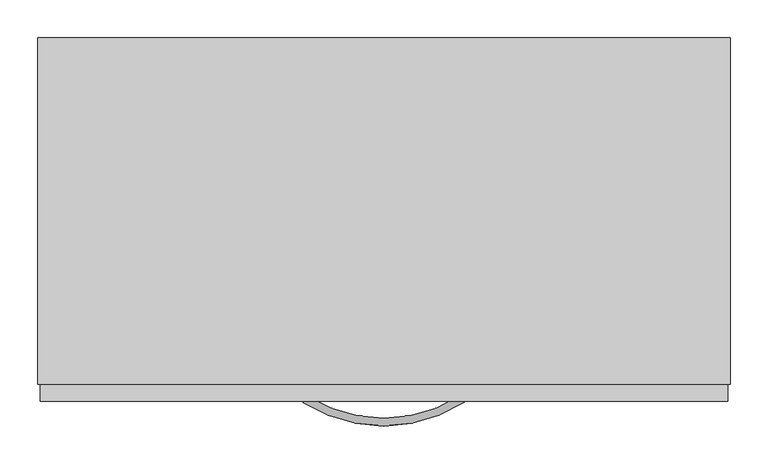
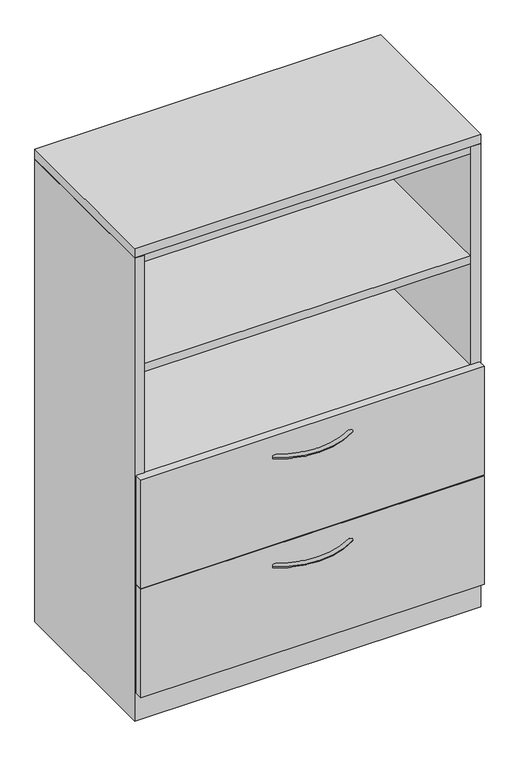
"""IFC4 building model written with IfcOpenShell, lengths in millimetres: furniture geometry, Steelcase - Universal Storage - Cabinet - Combination - Proud Steel : 52H - Open Cabinet/2 Drawers - 18 7/8D x 36W."""

from ifc_helpers import new_model, si_unit, point, frame, origin, place, context, project, spatial, polyline, circle_curve, ellipse_curve, trimmed, outline, extrude, faceted_brep, source, transform, mapped, element, save
from ifc_brep_helpers import plane_surface, revolved_surface, advanced_brep


def furniture_ed3dfec5(model_context):
    return source(origin(), model_context, "Body", "SolidModel", [
        extrude(outline(polyline([(889.0000242, -25.4000008), (889.0000242, -454.0250121), (25.4000008, -454.0250121), (25.4000008, -25.4000008), (889.0000242, -25.4000008)])), frame((0.0, 0.0, 660.4000242), z_axis=(0.0, 0.0, 1.0), x_axis=(1.0, 0.0, 0.0)), (0.0, 0.0, 1.0), 22.2249516),
        extrude(outline(polyline([(889.0000242, -25.4000008), (889.0000242, -454.0250121), (25.4000008, -454.0250121), (25.4000008, -25.4000008), (889.0000242, -25.4000008)])), frame((0.0, 0.0, 965.2000242), z_axis=(0.0, 0.0, 1.0), x_axis=(1.0, 0.0, 0.0)), (0.0, 0.0, 1.0), 22.2249516),
        extrude(outline(polyline([(889.0000242, -25.4000008), (889.0000242, -454.0250121), (25.4000008, -454.0250121), (25.4000008, -25.4000008), (889.0000242, -25.4000008)])), frame((0.0, 0.0, 1273.1750484), z_axis=(0.0, 0.0, 1.0), x_axis=(1.0, 0.0, 0.0)), (0.0, 0.0, 1.0), 22.2249516),
        advanced_brep(
        [(350.6245932, -481.5705994, 323.56425), (356.0977519, -473.0108019, 323.56425), (562.9315136, -481.1337636, 323.56425), (557.4231767, -472.5965612, 323.56425)],
        [
            (0, 1, circle_curve(frame((353.3611726, -477.2907007, 323.56425), z_axis=(-0.8424997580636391, 0.5386967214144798, 0.0), x_axis=(0.5386967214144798, 0.8424997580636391, 0.0)), 5.08)),
            (1, 0, circle_curve(frame((353.3611726, -477.2907007, 323.56425), z_axis=(-0.8424997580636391, 0.5386967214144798, 0.0), x_axis=(0.5386967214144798, 0.8424997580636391, 0.0)), 5.08)),
            (2, 3, circle_curve(frame((560.1773452, -476.8651624, 323.56425), z_axis=(0.8402758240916, 0.5421591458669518, 0.0), x_axis=(-0.5421591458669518, 0.8402758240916, 0.0)), 5.08)),
            (3, 2, circle_curve(frame((560.1773452, -476.8651624, 323.56425), z_axis=(0.8402758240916, 0.5421591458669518, 0.0), x_axis=(-0.5421591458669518, 0.8402758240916, 0.0)), 5.08)),
            (3, 1, circle_curve(frame((456.4380004, -316.0827352, 323.56425), z_axis=(0.0, 0.0, -1.0), x_axis=(-0.5386967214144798, -0.8424997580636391, 0.0)), 186.2648211)),
            (0, 2, circle_curve(frame((456.4380004, -316.0827352, 323.56425), z_axis=(0.0, 0.0, 1.0), x_axis=(-0.5386967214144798, -0.8424997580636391, 0.0)), 196.4248211)),
        ],
        [
            plane_surface(frame((353.7794521, -476.6365286, 324.358), z_axis=(-0.8424997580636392, 0.5386967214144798, 0.0), x_axis=(0.0, 0.0, 1.0))),
            plane_surface(frame((559.7563772, -476.2127171, 324.358), z_axis=(0.8402758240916, 0.5421591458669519, 0.0), x_axis=(0.0, 0.0, 1.0))),
            revolved_surface(trimmed(ellipse_curve(frame((353.3611726, -477.2907007, 323.56425), z_axis=(-0.8424997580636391, 0.5386967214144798, 0.0), x_axis=(0.5386967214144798, 0.8424997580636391, 0.0)), 5.08, 5.08), [point((350.6245932, -481.5705994, 323.56425))], [point((356.0977519, -473.0108019, 323.56425))], True, "CARTESIAN"), (456.4380004, -316.0827352, 324.358), (0.0, 0.0, 1.0)),
            revolved_surface(trimmed(ellipse_curve(frame((353.3611726, -477.2907007, 323.56425), z_axis=(-0.8424997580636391, 0.5386967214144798, 0.0), x_axis=(0.5386967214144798, 0.8424997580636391, 0.0)), 5.08, 5.08), [point((356.0977519, -473.0108019, 323.56425))], [point((350.6245932, -481.5705994, 323.56425))], True, "CARTESIAN"), (456.4380004, -316.0827352, 324.358), (0.0, 0.0, 1.0)),
        ],
        [
            (0, [[1, 2]]),
            (1, [[3, 4]]),
            (2, [[5, -1, 6, -4]]),
            (3, [[-6, -2, -5, -3]]),
        ],
    ),
        advanced_brep(
        [(350.6245932, -481.5705994, 627.85625), (356.0977519, -473.0108019, 627.85625), (562.9315136, -481.1337636, 627.85625), (557.4231767, -472.5965612, 627.85625)],
        [
            (0, 1, circle_curve(frame((353.3611726, -477.2907007, 627.85625), z_axis=(-0.8424997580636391, 0.5386967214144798, 0.0), x_axis=(0.5386967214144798, 0.8424997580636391, 0.0)), 5.08)),
            (1, 0, circle_curve(frame((353.3611726, -477.2907007, 627.85625), z_axis=(-0.8424997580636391, 0.5386967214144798, 0.0), x_axis=(0.5386967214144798, 0.8424997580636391, 0.0)), 5.08)),
            (2, 3, circle_curve(frame((560.1773452, -476.8651624, 627.85625), z_axis=(0.8402758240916, 0.5421591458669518, 0.0), x_axis=(-0.5421591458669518, 0.8402758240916, 0.0)), 5.08)),
            (3, 2, circle_curve(frame((560.1773452, -476.8651624, 627.85625), z_axis=(0.8402758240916, 0.5421591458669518, 0.0), x_axis=(-0.5421591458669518, 0.8402758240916, 0.0)), 5.08)),
            (3, 1, circle_curve(frame((456.4380004, -316.0827352, 627.85625), z_axis=(0.0, 0.0, -1.0), x_axis=(-0.5386967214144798, -0.8424997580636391, 0.0)), 186.2648211)),
            (0, 2, circle_curve(frame((456.4380004, -316.0827352, 627.85625), z_axis=(0.0, 0.0, 1.0), x_axis=(-0.5386967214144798, -0.8424997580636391, 0.0)), 196.4248211)),
        ],
        [
            plane_surface(frame((353.7794521, -476.6365286, 628.65), z_axis=(-0.8424997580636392, 0.5386967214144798, 0.0), x_axis=(0.0, 0.0, 1.0))),
            plane_surface(frame((559.7563772, -476.2127171, 628.65), z_axis=(0.8402758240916, 0.5421591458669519, 0.0), x_axis=(0.0, 0.0, 1.0))),
            revolved_surface(trimmed(ellipse_curve(frame((353.3611726, -477.2907007, 627.85625), z_axis=(-0.8424997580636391, 0.5386967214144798, 0.0), x_axis=(0.5386967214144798, 0.8424997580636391, 0.0)), 5.08, 5.08), [point((350.6245932, -481.5705994, 627.85625))], [point((356.0977519, -473.0108019, 627.85625))], True, "CARTESIAN"), (456.4380004, -316.0827352, 628.65), (0.0, 0.0, 1.0)),
            revolved_surface(trimmed(ellipse_curve(frame((353.3611726, -477.2907007, 627.85625), z_axis=(-0.8424997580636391, 0.5386967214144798, 0.0), x_axis=(0.5386967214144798, 0.8424997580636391, 0.0)), 5.08, 5.08), [point((356.0977519, -473.0108019, 627.85625))], [point((350.6245932, -481.5705994, 627.85625))], True, "CARTESIAN"), (456.4380004, -316.0827352, 628.65), (0.0, 0.0, 1.0)),
        ],
        [
            (0, [[1, 2]]),
            (1, [[3, 4]]),
            (2, [[5, -1, 6, -4]]),
            (3, [[-6, -2, -5, -3]]),
        ],
    ),
        faceted_brep([(25.4000008, -457.3261219, 76.2), (889.0000242, -457.3261219, 76.2), (889.0000242, -25.4000008, 76.2), (25.4000008, -25.4000008, 76.2), (914.4, 0.0, 0.0), (914.4, -457.3261219, 0.0), (0.0, -457.3261219, 0.0), (0.0, 0.0, 0.0), (0.0, 0.0, 1293.876), (914.4, 0.0, 1293.876), (0.0, -457.3261219, 1293.876), (914.4, -457.3261219, 1293.876), (889.0000242, -457.3261219, 1293.876), (25.4000008, -457.3261219, 1293.876), (889.0000242, -25.4000008, 1293.876), (25.4000008, -25.4000008, 1293.876)], [[[0, 1, 2, 3]], [[4, 5, 6, 7]], [[4, 7, 8, 9]], [[8, 7, 6, 10]], [[10, 6, 5, 11, 12, 1, 0, 13]], [[11, 5, 4, 9]], [[14, 12, 11, 9, 8, 10, 13, 15]], [[12, 14, 2, 1]], [[15, 13, 0, 3]], [[14, 15, 3, 2]]]),
        extrude(outline(polyline([(911.2225413, -479.552), (3.1725353, -479.552), (3.1725353, -457.3261219), (911.2225413, -457.3261219), (911.2225413, -479.552)])), frame((0.0, 0.0, 77.724), z_axis=(0.0, 0.0, 1.0), x_axis=(1.0, 0.0, 0.0)), (0.0, 0.0, 1.0), 303.276),
        extrude(outline(polyline([(911.2225413, -479.552), (3.1725353, -479.552), (3.1725353, -457.3261219), (911.2225413, -457.3261219), (911.2225413, -479.552)])), frame((0.0, 0.0, 382.524), z_axis=(0.0, 0.0, 1.0), x_axis=(1.0, 0.0, 0.0)), (0.0, 0.0, 1.0), 303.276),
        extrude(outline(polyline([(914.4, 0.0), (914.4, -457.3261219), (0.0, -457.3261219), (0.0, 0.0), (914.4, 0.0)])), frame((0.0, 0.0, 1295.3999516), z_axis=(0.0, 0.0, 1.0), x_axis=(1.0, 0.0, 0.0)), (0.0, 0.0, 1.0), 25.4000484),
    ])


if __name__ == "__main__":
    model = new_model("IFC4")
    model_context = context("Model", 3, world=origin())
    ifc_project = project(units=[si_unit("LENGTHUNIT", "METRE", prefix="MILLI")], contexts=[model_context])
    site = spatial("IfcSite", under=ifc_project)
    building = spatial("IfcBuilding", under=site)
    placement = place(None, origin())
    furniture_shape = furniture_ed3dfec5(model_context)
    element("IfcFurniture", 1, ObjectType="Steelcase - Universal Storage - Cabinet - Combination - Proud Steel : 52H - Open Cabinet/2 Drawers - 18 7/8D x 36W", at=placement, inside=building, context=model_context, shape_type="MappedRepresentation", body=[
        mapped(furniture_shape, transform((0.0, 0.0, 0.0), x_axis=(1.0, 0.0, 0.0), y_axis=(0.0, 1.0, 0.0), z_axis=(0.0, 0.0, 1.0))),
    ])
    save(model, "model.ifc")
